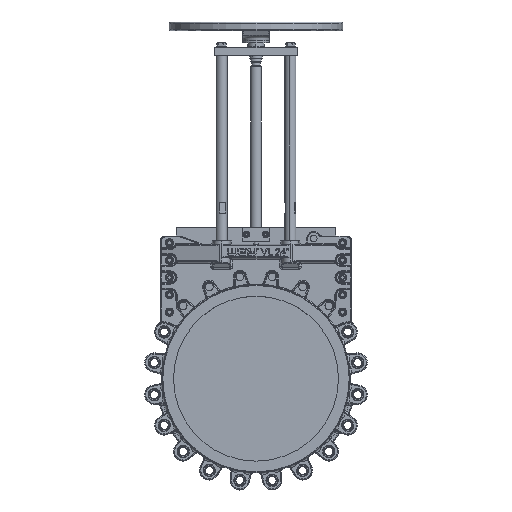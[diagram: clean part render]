
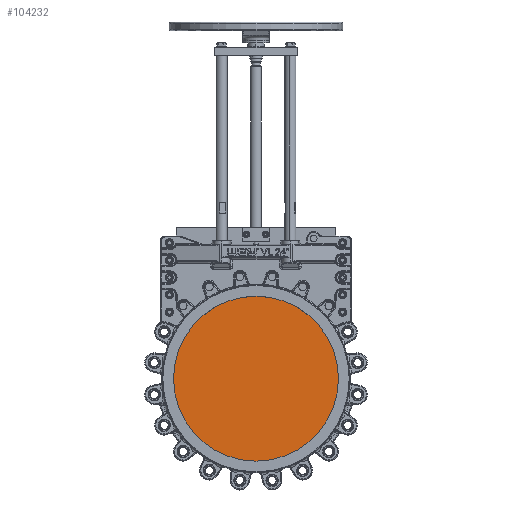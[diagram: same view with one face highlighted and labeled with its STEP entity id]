
A CAD part, top view. The second image highlights one B-rep face of the part: STEP entity #104232.
In plain terms, the highlighted planar face has unit normal (0, 0, 1).
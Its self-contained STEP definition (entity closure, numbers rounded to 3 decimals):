
#7974 = DIRECTION ( 'NONE',  ( 1., 0., 0. ) ) ;
#11142 = ORIENTED_EDGE ( 'NONE', *, *, #151527, .T. ) ;
#19432 = CIRCLE ( 'NONE', #62346, 300. ) ;
#24057 = EDGE_LOOP ( 'NONE', ( #11142, #73066 ) ) ;
#33881 = CARTESIAN_POINT ( 'NONE',  ( 300., 0., -0.25 ) ) ;
#37678 = PLANE ( 'NONE',  #105915 ) ;
#42455 = DIRECTION ( 'NONE',  ( 0., 0., 1. ) ) ;
#48021 = CIRCLE ( 'NONE', #111434, 300. ) ;
#48481 = DIRECTION ( 'NONE',  ( 0., 0., 1. ) ) ;
#62346 = AXIS2_PLACEMENT_3D ( 'NONE', #121943, #108378, #177876 ) ;
#62381 = CARTESIAN_POINT ( 'NONE',  ( -300., 0., -0.25 ) ) ;
#73066 = ORIENTED_EDGE ( 'NONE', *, *, #151736, .T. ) ;
#76397 = FACE_OUTER_BOUND ( 'NONE', #24057, .T. ) ;
#104232 = ADVANCED_FACE ( 'NONE', ( #76397 ), #37678, .T. ) ;
#105915 = AXIS2_PLACEMENT_3D ( 'NONE', #159573, #48481, #147819 ) ;
#108378 = DIRECTION ( 'NONE',  ( 0., 0., 1. ) ) ;
#111434 = AXIS2_PLACEMENT_3D ( 'NONE', #166120, #42455, #7974 ) ;
#121943 = CARTESIAN_POINT ( 'NONE',  ( 0., 0., -0.25 ) ) ;
#147691 = VERTEX_POINT ( 'NONE', #62381 ) ;
#147819 = DIRECTION ( 'NONE',  ( 1., 0., 0. ) ) ;
#151527 = EDGE_CURVE ( 'NONE', #163977, #147691, #19432, .T. ) ;
#151736 = EDGE_CURVE ( 'NONE', #147691, #163977, #48021, .T. ) ;
#159573 = CARTESIAN_POINT ( 'NONE',  ( 0., 0., -0.25 ) ) ;
#163977 = VERTEX_POINT ( 'NONE', #33881 ) ;
#166120 = CARTESIAN_POINT ( 'NONE',  ( 0., 0., -0.25 ) ) ;
#177876 = DIRECTION ( 'NONE',  ( 1., 0., 0. ) ) ;
